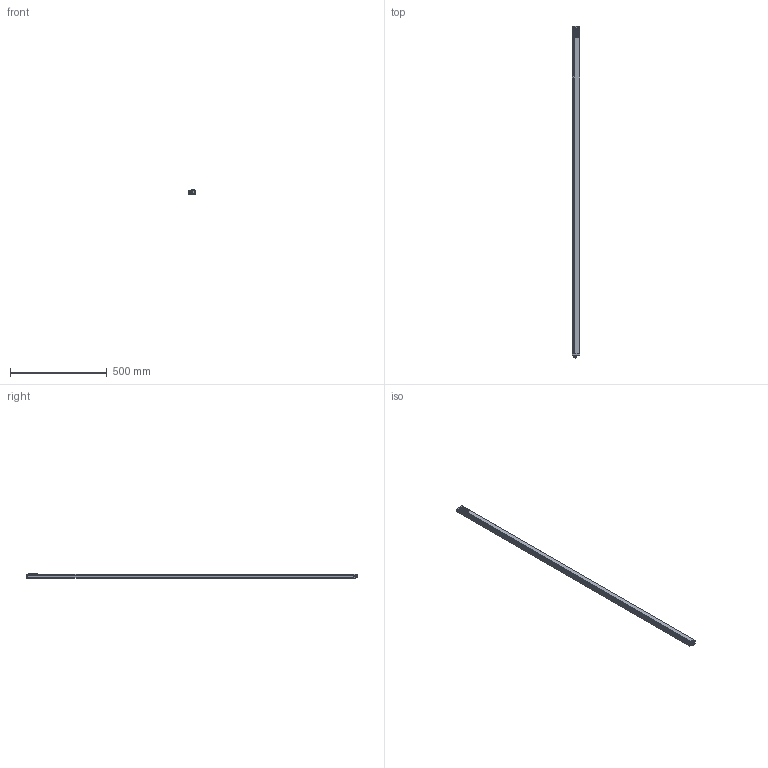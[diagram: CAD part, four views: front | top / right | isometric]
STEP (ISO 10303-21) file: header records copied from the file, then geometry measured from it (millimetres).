
FILE_DESCRIPTION(/* description */ (''),/* implementation_level */ '2;1');
FILE_NAME(/* name */ 'C:\Users\andre\SynologyDrive\Optoscan\Libreria Componenti\00 - Barriere\Barriera sorgente\Argo_1680_TX.stp',/* time_stamp */ '2021-04-22T10:26:49+02:00',/* author */ ('andre'),/* organization */ (''),/* preprocessor_version */ 'ST-DEVELOPER v18',/* originating_system */ 'Autodesk Inventor 2020',/* authorisation */ '');
FILE_SCHEMA (('AUTOMOTIVE_DESIGN { 1 0 10303 214 3 1 1 }'));
Length unit declared in the file: millimetre
Products named in the file (1): Argo_1680_TX
Bounding box: 40.5 x 1713.3 x 20.75 mm (x, y, z)
Volume: 338444.3 mm3; surface area: 444727.8 mm2
Topology: 1 solids, 1 shells, 696 faces, 1911 edges, 1225 vertices
Faces by surface type: plane 321, cylinder 195, bspline 94, torus 72, cone 8, sphere 6
Full cylindrical faces by diameter (mm): 1 x4, 2.459 x4, 2.5 x4, 3 x4, 3.5 x4, 5.5 x4, 8 x1, 10.5 x2, 11.75 x9, 15.7 x1, 17.5 x1
Entity records: 30770 total; most frequent: CARTESIAN_POINT 12670, ORIENTED_EDGE 3806, DIRECTION 3415, EDGE_CURVE 1903, VERTEX_POINT 1225, AXIS2_PLACEMENT_3D 1193, LINE 1029, VECTOR 1029
